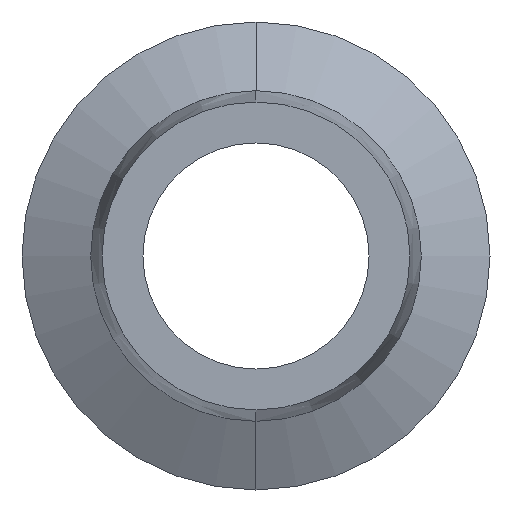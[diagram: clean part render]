
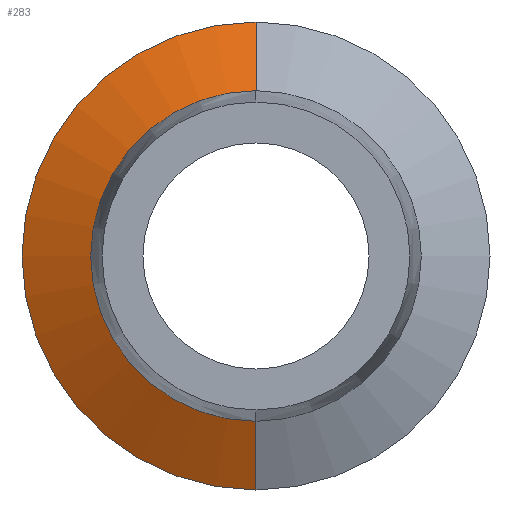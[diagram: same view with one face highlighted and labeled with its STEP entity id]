
A CAD part, left-side view. The second image highlights one B-rep face of the part: STEP entity #283.
In plain terms, the highlighted conical face has half-angle 63.146 degrees and reference radius 13.45 mm.
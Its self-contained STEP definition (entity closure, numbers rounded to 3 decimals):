
#61 = CARTESIAN_POINT ( 'NONE',  ( 0.99, 0., -13.45 ) ) ;
#73 = EDGE_CURVE ( 'NONE', #711, #342, #602, .T. ) ;
#77 = ORIENTED_EDGE ( 'NONE', *, *, #73, .F. ) ;
#91 = CARTESIAN_POINT ( 'NONE',  ( 0.99, 0., 13.45 ) ) ;
#100 = AXIS2_PLACEMENT_3D ( 'NONE', #449, #330, #708 ) ;
#125 = AXIS2_PLACEMENT_3D ( 'NONE', #380, #386, #636 ) ;
#145 = ORIENTED_EDGE ( 'NONE', *, *, #156, .F. ) ;
#156 = EDGE_CURVE ( 'NONE', #342, #743, #210, .T. ) ;
#159 = CIRCLE ( 'NONE', #125, 13.45 ) ;
#210 = LINE ( 'NONE', #334, #662 ) ;
#254 = EDGE_CURVE ( 'NONE', #271, #743, #159, .T. ) ;
#271 = VERTEX_POINT ( 'NONE', #324 ) ;
#283 = ADVANCED_FACE ( 'NONE', ( #401 ), #352, .T. ) ;
#324 = CARTESIAN_POINT ( 'NONE',  ( 0.99, 0., 13.45 ) ) ;
#330 = DIRECTION ( 'NONE',  ( -1., 0., 0. ) ) ;
#334 = CARTESIAN_POINT ( 'NONE',  ( 0.99, 0., -13.45 ) ) ;
#337 = CARTESIAN_POINT ( 'NONE',  ( 0.99, 0., 0. ) ) ;
#339 = DIRECTION ( 'NONE',  ( 0.452, 0., 0.892 ) ) ;
#342 = VERTEX_POINT ( 'NONE', #649 ) ;
#352 = CONICAL_SURFACE ( 'NONE', #575, 13.45, 1.102 ) ;
#380 = CARTESIAN_POINT ( 'NONE',  ( 0.99, 0., 0. ) ) ;
#386 = DIRECTION ( 'NONE',  ( -1., 0., 0. ) ) ;
#401 = FACE_OUTER_BOUND ( 'NONE', #402, .T. ) ;
#402 = EDGE_LOOP ( 'NONE', ( #77, #779, #790, #145 ) ) ;
#449 = CARTESIAN_POINT ( 'NONE',  ( -1.01, 0., 0. ) ) ;
#460 = EDGE_CURVE ( 'NONE', #711, #271, #478, .T. ) ;
#462 = DIRECTION ( 'NONE',  ( 0.452, 0., -0.892 ) ) ;
#478 = LINE ( 'NONE', #91, #507 ) ;
#507 = VECTOR ( 'NONE', #339, 1000. ) ;
#525 = DIRECTION ( 'NONE',  ( 1., 0., 0. ) ) ;
#575 = AXIS2_PLACEMENT_3D ( 'NONE', #337, #525, #585 ) ;
#585 = DIRECTION ( 'NONE',  ( 0., 0., -1. ) ) ;
#602 = CIRCLE ( 'NONE', #100, 9.5 ) ;
#636 = DIRECTION ( 'NONE',  ( 0., 0., 1. ) ) ;
#649 = CARTESIAN_POINT ( 'NONE',  ( -1.01, 0., -9.5 ) ) ;
#662 = VECTOR ( 'NONE', #462, 1000. ) ;
#683 = CARTESIAN_POINT ( 'NONE',  ( -1.01, 0., 9.5 ) ) ;
#708 = DIRECTION ( 'NONE',  ( 0., 0., 1. ) ) ;
#711 = VERTEX_POINT ( 'NONE', #683 ) ;
#743 = VERTEX_POINT ( 'NONE', #61 ) ;
#779 = ORIENTED_EDGE ( 'NONE', *, *, #460, .T. ) ;
#790 = ORIENTED_EDGE ( 'NONE', *, *, #254, .T. ) ;
